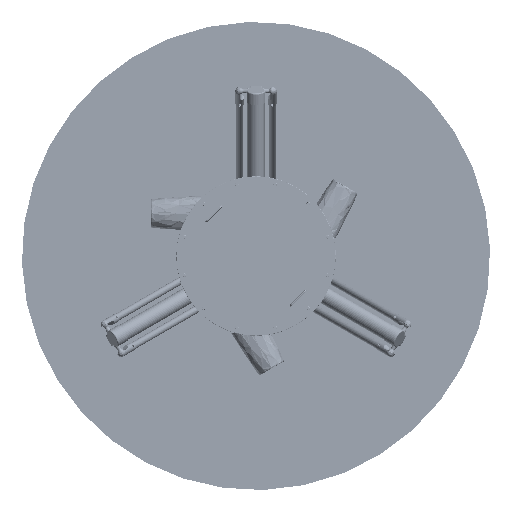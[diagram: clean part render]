
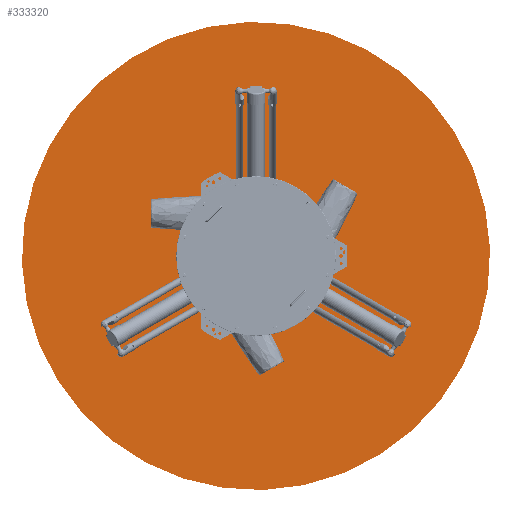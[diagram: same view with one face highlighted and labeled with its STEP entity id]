
A CAD part, front view. The second image highlights one B-rep face of the part: STEP entity #333320.
In plain terms, the highlighted planar face has unit normal (0, -1, 0) as drawn and (0, 1, 0) by its records, which use the part's own axes.
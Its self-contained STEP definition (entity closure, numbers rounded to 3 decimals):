
#6341 = DIRECTION ( 'NONE',  ( 0., 0., 1. ) ) ;
#7756 = PLANE ( 'NONE',  #233065 ) ;
#125617 = EDGE_LOOP ( 'NONE', ( #212093 ) ) ;
#130070 = CARTESIAN_POINT ( 'NONE',  ( 0., 710., 0. ) ) ;
#200170 = DIRECTION ( 'NONE',  ( 0., 0., -1. ) ) ;
#203567 = AXIS2_PLACEMENT_3D ( 'NONE', #130070, #264402, #200170 ) ;
#204923 = DIRECTION ( 'NONE',  ( 0., 1., 0. ) ) ;
#212093 = ORIENTED_EDGE ( 'NONE', *, *, #404065, .F. ) ;
#218710 = CIRCLE ( 'NONE', #203567, 1100. ) ;
#233065 = AXIS2_PLACEMENT_3D ( 'NONE', #371503, #204923, #6341 ) ;
#244918 = FACE_OUTER_BOUND ( 'NONE', #125617, .T. ) ;
#264402 = DIRECTION ( 'NONE',  ( 0., -1., 0. ) ) ;
#271363 = CARTESIAN_POINT ( 'NONE',  ( 0., 710., -1100. ) ) ;
#333320 = ADVANCED_FACE ( 'NONE', ( #244918 ), #7756, .T. ) ;
#371503 = CARTESIAN_POINT ( 'NONE',  ( 0., 710., 0. ) ) ;
#376590 = VERTEX_POINT ( 'NONE', #271363 ) ;
#404065 = EDGE_CURVE ( 'NONE', #376590, #376590, #218710, .T. ) ;
